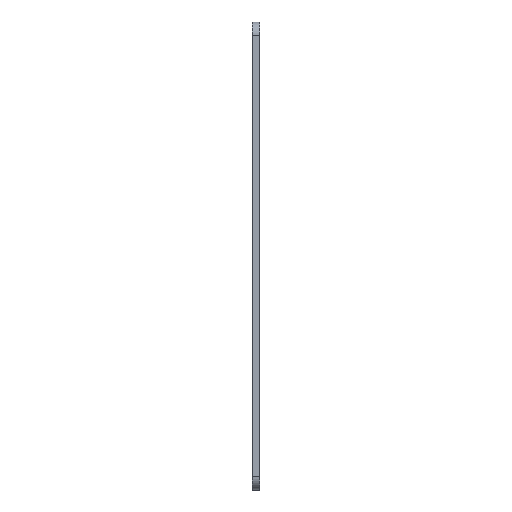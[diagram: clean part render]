
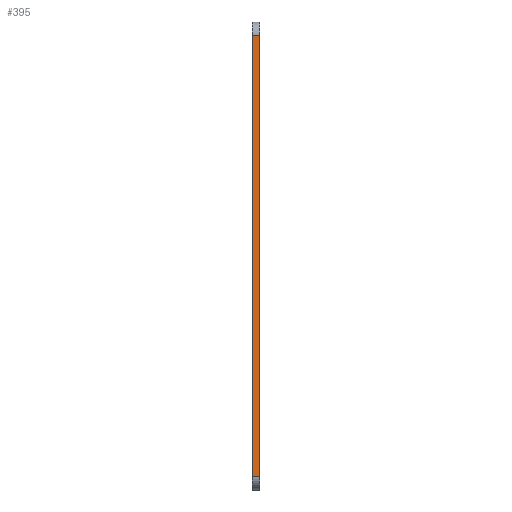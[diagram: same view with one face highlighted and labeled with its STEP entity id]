
A CAD part, left-side view. The second image highlights one B-rep face of the part: STEP entity #395.
In plain terms, the highlighted planar face has unit normal (-1, 0, 0).
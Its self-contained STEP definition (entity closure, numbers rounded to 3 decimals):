
#6 = EDGE_CURVE ( 'NONE', #883, #329, #315, .T. ) ;
#28 = VECTOR ( 'NONE', #644, 1000. ) ;
#30 = DIRECTION ( 'NONE',  ( 0., 0., 1. ) ) ;
#46 = EDGE_CURVE ( 'NONE', #507, #883, #119, .T. ) ;
#52 = EDGE_LOOP ( 'NONE', ( #382, #805, #124, #566 ) ) ;
#82 = CARTESIAN_POINT ( 'NONE',  ( -12.825, 0., 114.404 ) ) ;
#113 = LINE ( 'NONE', #785, #28 ) ;
#119 = LINE ( 'NONE', #821, #173 ) ;
#124 = ORIENTED_EDGE ( 'NONE', *, *, #793, .T. ) ;
#162 = EDGE_CURVE ( 'NONE', #701, #329, #393, .T. ) ;
#173 = VECTOR ( 'NONE', #266, 1000. ) ;
#266 = DIRECTION ( 'NONE',  ( 0., -1., 0. ) ) ;
#303 = VECTOR ( 'NONE', #679, 1000. ) ;
#309 = AXIS2_PLACEMENT_3D ( 'NONE', #853, #415, #30 ) ;
#315 = LINE ( 'NONE', #820, #303 ) ;
#316 = FACE_OUTER_BOUND ( 'NONE', #52, .T. ) ;
#329 = VERTEX_POINT ( 'NONE', #402 ) ;
#346 = PLANE ( 'NONE',  #309 ) ;
#382 = ORIENTED_EDGE ( 'NONE', *, *, #6, .F. ) ;
#393 = LINE ( 'NONE', #411, #568 ) ;
#395 = ADVANCED_FACE ( 'NONE', ( #316 ), #346, .T. ) ;
#402 = CARTESIAN_POINT ( 'NONE',  ( -12.825, 0., -9.053 ) ) ;
#411 = CARTESIAN_POINT ( 'NONE',  ( -12.825, 2., -9.053 ) ) ;
#415 = DIRECTION ( 'NONE',  ( -1., 0., 0. ) ) ;
#471 = CARTESIAN_POINT ( 'NONE',  ( -12.825, 2., 114.404 ) ) ;
#507 = VERTEX_POINT ( 'NONE', #471 ) ;
#553 = CARTESIAN_POINT ( 'NONE',  ( -12.825, 2., -9.053 ) ) ;
#566 = ORIENTED_EDGE ( 'NONE', *, *, #162, .T. ) ;
#568 = VECTOR ( 'NONE', #845, 1000. ) ;
#644 = DIRECTION ( 'NONE',  ( 0., 0., -1. ) ) ;
#679 = DIRECTION ( 'NONE',  ( 0., 0., -1. ) ) ;
#701 = VERTEX_POINT ( 'NONE', #553 ) ;
#785 = CARTESIAN_POINT ( 'NONE',  ( -12.825, 2., 114.404 ) ) ;
#793 = EDGE_CURVE ( 'NONE', #507, #701, #113, .T. ) ;
#805 = ORIENTED_EDGE ( 'NONE', *, *, #46, .F. ) ;
#820 = CARTESIAN_POINT ( 'NONE',  ( -12.825, 0., 114.404 ) ) ;
#821 = CARTESIAN_POINT ( 'NONE',  ( -12.825, 2., 114.404 ) ) ;
#845 = DIRECTION ( 'NONE',  ( 0., -1., 0. ) ) ;
#853 = CARTESIAN_POINT ( 'NONE',  ( -12.825, 2., 114.404 ) ) ;
#883 = VERTEX_POINT ( 'NONE', #82 ) ;
